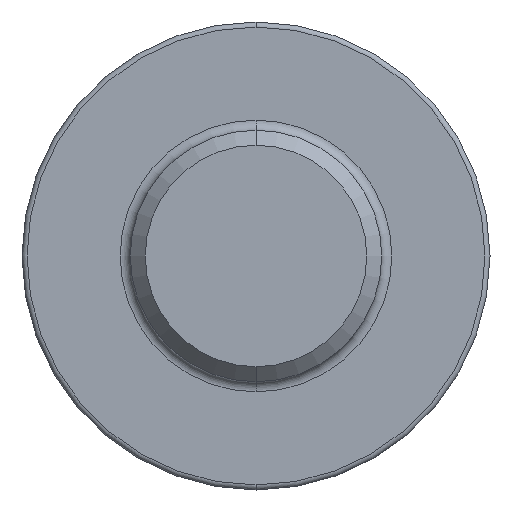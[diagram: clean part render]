
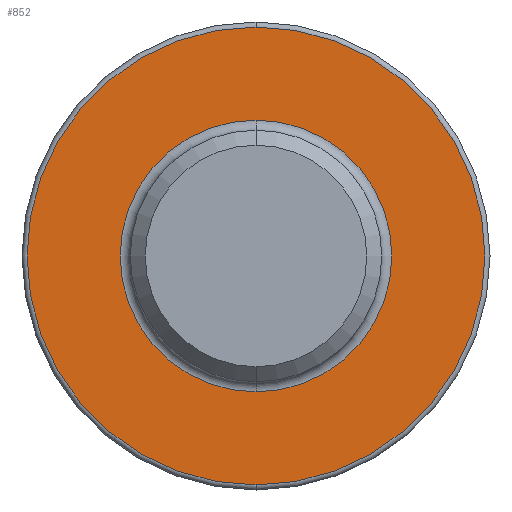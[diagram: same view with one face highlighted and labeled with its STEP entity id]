
A CAD part, front view. The second image highlights one B-rep face of the part: STEP entity #852.
In plain terms, the highlighted planar face has unit normal (0, -1, 0).
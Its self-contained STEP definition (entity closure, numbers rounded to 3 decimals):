
#30 = FACE_BOUND ( 'NONE', #408, .T. ) ;
#45 = CARTESIAN_POINT ( 'NONE',  ( 0., -2.7, 4.55 ) ) ;
#46 = VERTEX_POINT ( 'NONE', #45 ) ;
#93 = CARTESIAN_POINT ( 'NONE',  ( 0., -2.7, 0. ) ) ;
#165 = AXIS2_PLACEMENT_3D ( 'NONE', #93, #363, #760 ) ;
#180 = VERTEX_POINT ( 'NONE', #273 ) ;
#191 = ORIENTED_EDGE ( 'NONE', *, *, #508, .T. ) ;
#194 = AXIS2_PLACEMENT_3D ( 'NONE', #356, #297, #570 ) ;
#205 = DIRECTION ( 'NONE',  ( 0., 0., 1. ) ) ;
#217 = PLANE ( 'NONE',  #194 ) ;
#234 = FACE_OUTER_BOUND ( 'NONE', #617, .T. ) ;
#272 = CARTESIAN_POINT ( 'NONE',  ( 0., -2.7, 0. ) ) ;
#273 = CARTESIAN_POINT ( 'NONE',  ( 0., -2.7, -4.55 ) ) ;
#297 = DIRECTION ( 'NONE',  ( 0., 1., 0. ) ) ;
#306 = CIRCLE ( 'NONE', #700, 2.7 ) ;
#325 = CARTESIAN_POINT ( 'NONE',  ( 0., -2.7, 0. ) ) ;
#329 = EDGE_CURVE ( 'NONE', #180, #46, #592, .T. ) ;
#356 = CARTESIAN_POINT ( 'NONE',  ( 2.5, -2.7, 0. ) ) ;
#363 = DIRECTION ( 'NONE',  ( 0., -1., 0. ) ) ;
#401 = CARTESIAN_POINT ( 'NONE',  ( 0., -2.7, -2.7 ) ) ;
#407 = DIRECTION ( 'NONE',  ( 0., -1., 0. ) ) ;
#408 = EDGE_LOOP ( 'NONE', ( #191, #687 ) ) ;
#489 = ORIENTED_EDGE ( 'NONE', *, *, #329, .T. ) ;
#508 = EDGE_CURVE ( 'NONE', #580, #585, #640, .T. ) ;
#525 = DIRECTION ( 'NONE',  ( 0., 1., 0. ) ) ;
#532 = DIRECTION ( 'NONE',  ( 0., 0., 1. ) ) ;
#564 = AXIS2_PLACEMENT_3D ( 'NONE', #809, #407, #205 ) ;
#570 = DIRECTION ( 'NONE',  ( 0., 0., 1. ) ) ;
#580 = VERTEX_POINT ( 'NONE', #600 ) ;
#585 = VERTEX_POINT ( 'NONE', #401 ) ;
#592 = CIRCLE ( 'NONE', #165, 4.55 ) ;
#600 = CARTESIAN_POINT ( 'NONE',  ( 0., -2.7, 2.7 ) ) ;
#607 = EDGE_CURVE ( 'NONE', #585, #580, #306, .T. ) ;
#617 = EDGE_LOOP ( 'NONE', ( #684, #489 ) ) ;
#640 = CIRCLE ( 'NONE', #716, 2.7 ) ;
#651 = DIRECTION ( 'NONE',  ( 0., 0., 1. ) ) ;
#684 = ORIENTED_EDGE ( 'NONE', *, *, #693, .T. ) ;
#687 = ORIENTED_EDGE ( 'NONE', *, *, #607, .T. ) ;
#693 = EDGE_CURVE ( 'NONE', #46, #180, #755, .T. ) ;
#700 = AXIS2_PLACEMENT_3D ( 'NONE', #272, #800, #532 ) ;
#716 = AXIS2_PLACEMENT_3D ( 'NONE', #325, #525, #651 ) ;
#755 = CIRCLE ( 'NONE', #564, 4.55 ) ;
#760 = DIRECTION ( 'NONE',  ( 0., 0., 1. ) ) ;
#800 = DIRECTION ( 'NONE',  ( 0., 1., 0. ) ) ;
#809 = CARTESIAN_POINT ( 'NONE',  ( 0., -2.7, 0. ) ) ;
#852 = ADVANCED_FACE ( 'NONE', ( #30, #234 ), #217, .F. ) ;
